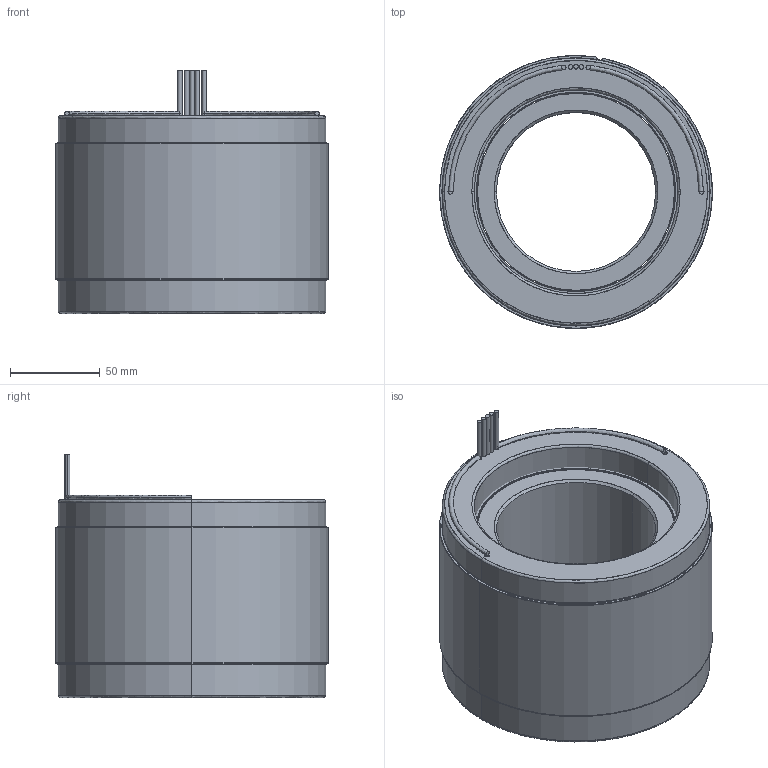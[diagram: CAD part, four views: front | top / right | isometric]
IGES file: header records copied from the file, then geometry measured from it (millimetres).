
Start section: SolidWorks IGES file using analytic representation for surfaces
Global section: file name: Z:\STANDARD STATOR ROTOR SETS\NEW DIRECT DRIVE MOTOR\6 OD 18S16P\6100338-02.IGS; native system: SolidWorks 2016; preprocessor: SolidWorks 2016; author: eng; date: 191023.153159; units: millimetre
Bounding box: 152.4 x 152.39 x 135.89 mm (x, y, z)
Surface area: 309061.1 mm2 (no closed solid volume)
Topology: 0 solids, 0 shells, 128 faces, 2952 edges, 2952 vertices
Faces by surface type: bspline 66, revolution 62
